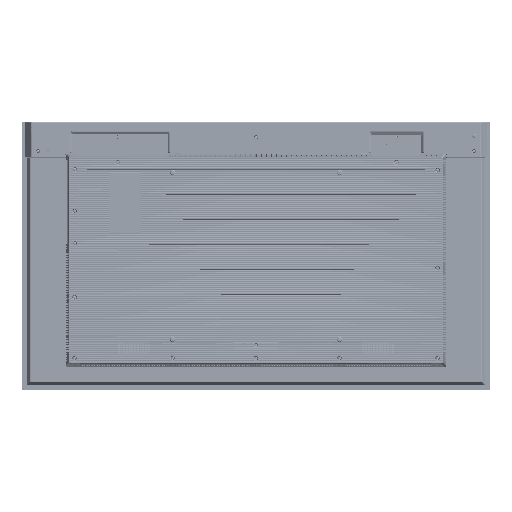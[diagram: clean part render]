
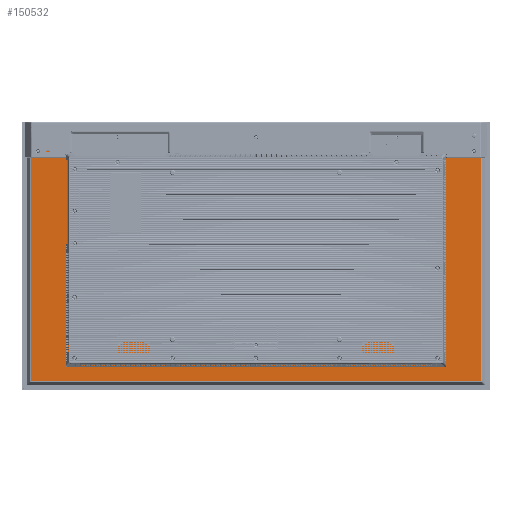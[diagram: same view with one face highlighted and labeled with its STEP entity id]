
A CAD part, front view. The second image highlights one B-rep face of the part: STEP entity #150532.
In plain terms, the highlighted planar face has unit normal (0, -1, 0).
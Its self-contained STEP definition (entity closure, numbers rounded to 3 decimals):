
#92770=ELLIPSE('',#691454,0.704,0.5);
#92771=ELLIPSE('',#691455,0.704,0.5);
#92772=ELLIPSE('',#691456,0.704,0.5);
#92773=ELLIPSE('',#691457,0.704,0.5);
#150532=ADVANCED_FACE('',(#201191,#201192),#179693,.T.);
#179693=PLANE('',#691458);
#201191=FACE_BOUND('',#205165,.T.);
#201192=FACE_BOUND('',#205166,.T.);
#205165=EDGE_LOOP('',(#244092,#244093,#244094,#244095,#244096,#244097));
#205166=EDGE_LOOP('',(#244098,#244099,#244100,#244101,#244102,#244103,#244104,
#244105));
#244092=ORIENTED_EDGE('',*,*,#471272,.T.);
#244093=ORIENTED_EDGE('',*,*,#471273,.F.);
#244094=ORIENTED_EDGE('',*,*,#471274,.F.);
#244095=ORIENTED_EDGE('',*,*,#471275,.F.);
#244096=ORIENTED_EDGE('',*,*,#471276,.T.);
#244097=ORIENTED_EDGE('',*,*,#471277,.F.);
#244098=ORIENTED_EDGE('',*,*,#471278,.T.);
#244099=ORIENTED_EDGE('',*,*,#471279,.T.);
#244100=ORIENTED_EDGE('',*,*,#471280,.T.);
#244101=ORIENTED_EDGE('',*,*,#471281,.T.);
#244102=ORIENTED_EDGE('',*,*,#471282,.T.);
#244103=ORIENTED_EDGE('',*,*,#471283,.T.);
#244104=ORIENTED_EDGE('',*,*,#471284,.T.);
#244105=ORIENTED_EDGE('',*,*,#471285,.T.);
#413677=VERTEX_POINT('',#893088);
#413678=VERTEX_POINT('',#893089);
#413679=VERTEX_POINT('',#893091);
#413680=VERTEX_POINT('',#893093);
#413681=VERTEX_POINT('',#893095);
#413682=VERTEX_POINT('',#893097);
#413683=VERTEX_POINT('',#893100);
#413684=VERTEX_POINT('',#893101);
#413685=VERTEX_POINT('',#893103);
#413686=VERTEX_POINT('',#893105);
#413687=VERTEX_POINT('',#893107);
#413688=VERTEX_POINT('',#893109);
#413689=VERTEX_POINT('',#893111);
#413690=VERTEX_POINT('',#893113);
#471272=EDGE_CURVE('',#413677,#413678,#557660,.T.);
#471273=EDGE_CURVE('',#413679,#413678,#557661,.T.);
#471274=EDGE_CURVE('',#413680,#413679,#557662,.T.);
#471275=EDGE_CURVE('',#413681,#413680,#557663,.T.);
#471276=EDGE_CURVE('',#413681,#413682,#557664,.T.);
#471277=EDGE_CURVE('',#413677,#413682,#557665,.T.);
#471278=EDGE_CURVE('',#413683,#413684,#557666,.T.);
#471279=EDGE_CURVE('',#413684,#413685,#92770,.T.);
#471280=EDGE_CURVE('',#413685,#413686,#557667,.T.);
#471281=EDGE_CURVE('',#413686,#413687,#92771,.T.);
#471282=EDGE_CURVE('',#413687,#413688,#557668,.T.);
#471283=EDGE_CURVE('',#413688,#413689,#92772,.T.);
#471284=EDGE_CURVE('',#413689,#413690,#557669,.T.);
#471285=EDGE_CURVE('',#413690,#413683,#92773,.T.);
#557660=LINE('',#893087,#625362);
#557661=LINE('',#893090,#625363);
#557662=LINE('',#893092,#625364);
#557663=LINE('',#893094,#625365);
#557664=LINE('',#893096,#625366);
#557665=LINE('',#893098,#625367);
#557666=LINE('',#893099,#625368);
#557667=LINE('',#893104,#625369);
#557668=LINE('',#893108,#625370);
#557669=LINE('',#893112,#625371);
#625362=VECTOR('',#736182,1.);
#625363=VECTOR('',#736183,1.);
#625364=VECTOR('',#736184,1.);
#625365=VECTOR('',#736185,1.);
#625366=VECTOR('',#736186,1.);
#625367=VECTOR('',#736187,1.);
#625368=VECTOR('',#736188,1.);
#625369=VECTOR('',#736191,1.);
#625370=VECTOR('',#736194,1.);
#625371=VECTOR('',#736197,1.);
#691454=AXIS2_PLACEMENT_3D('',#893102,#736189,#736190);
#691455=AXIS2_PLACEMENT_3D('',#893106,#736192,#736193);
#691456=AXIS2_PLACEMENT_3D('',#893110,#736195,#736196);
#691457=AXIS2_PLACEMENT_3D('',#893114,#736198,#736199);
#691458=AXIS2_PLACEMENT_3D('',#893115,#736200,#736201);
#736182=DIRECTION('',(0.,0.,1.));
#736183=DIRECTION('',(-1.,0.,0.));
#736184=DIRECTION('',(0.,0.,1.));
#736185=DIRECTION('',(-1.,0.,0.));
#736186=DIRECTION('',(0.,0.,-1.));
#736187=DIRECTION('',(1.,0.,0.));
#736188=DIRECTION('',(1.,0.,0.));
#736189=DIRECTION('',(0.,-1.,0.));
#736190=DIRECTION('',(-0.707,0.,0.707));
#736191=DIRECTION('',(0.,0.,1.));
#736192=DIRECTION('',(0.,-1.,0.));
#736193=DIRECTION('',(-0.707,0.,-0.707));
#736194=DIRECTION('',(-1.,0.,0.));
#736195=DIRECTION('',(0.,-1.,0.));
#736196=DIRECTION('',(0.707,0.,-0.707));
#736197=DIRECTION('',(0.,0.,-1.));
#736198=DIRECTION('',(0.,-1.,0.));
#736199=DIRECTION('',(0.707,0.,0.707));
#736200=DIRECTION('',(0.,-1.,0.));
#736201=DIRECTION('',(0.,0.,-1.));
#893087=CARTESIAN_POINT('',(-453.165,-18.2,-355.98));
#893088=CARTESIAN_POINT('',(-453.165,-18.2,-253.414));
#893089=CARTESIAN_POINT('',(-453.165,-18.2,205.487));
#893090=CARTESIAN_POINT('',(-556.32,-18.2,205.487));
#893091=CARTESIAN_POINT('',(-440.925,-18.2,205.487));
#893092=CARTESIAN_POINT('',(-440.925,-18.2,-355.98));
#893093=CARTESIAN_POINT('',(-440.925,-18.2,-20.505));
#893094=CARTESIAN_POINT('',(-556.32,-18.2,-20.505));
#893095=CARTESIAN_POINT('',(-428.721,-18.2,-20.505));
#893096=CARTESIAN_POINT('',(-428.721,-18.2,-355.98));
#893097=CARTESIAN_POINT('',(-428.721,-18.2,-253.414));
#893098=CARTESIAN_POINT('',(-556.32,-18.2,-253.414));
#893099=CARTESIAN_POINT('',(-556.32,-18.2,-339.816));
#893100=CARTESIAN_POINT('',(-539.746,-18.2,-339.816));
#893101=CARTESIAN_POINT('',(539.746,-18.2,-339.816));
#893102=CARTESIAN_POINT('',(539.546,-18.2,-339.206));
#893103=CARTESIAN_POINT('',(540.156,-18.2,-339.406));
#893104=CARTESIAN_POINT('',(540.156,-18.2,-355.98));
#893105=CARTESIAN_POINT('',(540.156,-18.2,260.269));
#893106=CARTESIAN_POINT('',(539.546,-18.2,260.068));
#893107=CARTESIAN_POINT('',(539.746,-18.2,260.678));
#893108=CARTESIAN_POINT('',(-556.32,-18.2,260.678));
#893109=CARTESIAN_POINT('',(-539.746,-18.2,260.678));
#893110=CARTESIAN_POINT('',(-539.546,-18.2,260.068));
#893111=CARTESIAN_POINT('',(-540.156,-18.2,260.269));
#893112=CARTESIAN_POINT('',(-540.156,-18.2,-355.98));
#893113=CARTESIAN_POINT('',(-540.156,-18.2,-339.406));
#893114=CARTESIAN_POINT('',(-539.546,-18.2,-339.206));
#893115=CARTESIAN_POINT('',(-556.32,-18.2,-355.98));
